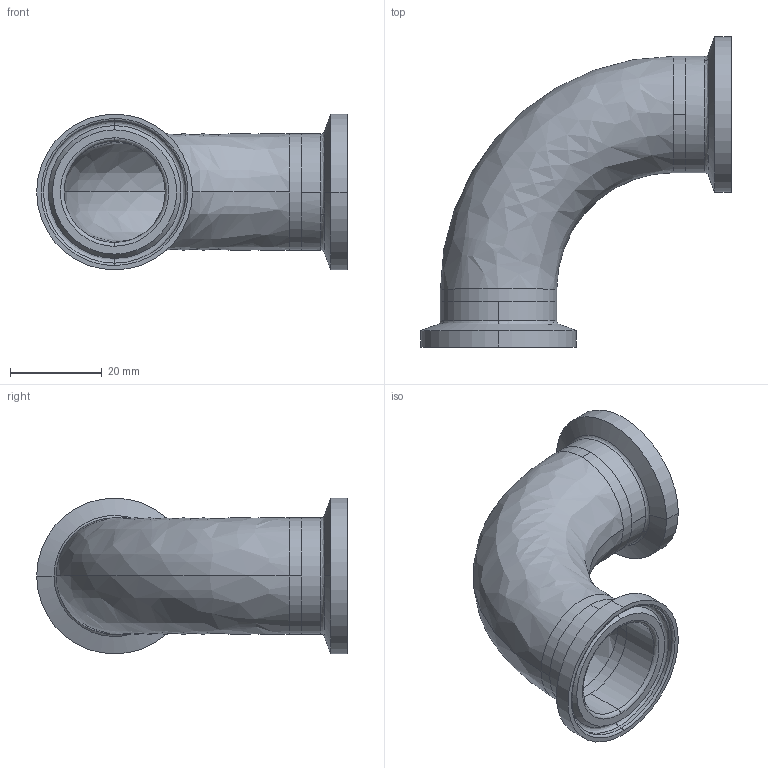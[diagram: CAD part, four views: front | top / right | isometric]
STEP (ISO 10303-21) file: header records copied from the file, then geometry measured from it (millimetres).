
FILE_DESCRIPTION (( 'STEP AP214' ), '1' );
FILE_NAME ('TEG2C6L1.0-.. Type A.STEP', '2016-05-22T10:38:36', ( 'eran' ), ( '' ), 'SwSTEP 2.0', 'SolidWorks 2016', '' );
FILE_SCHEMA (( 'AUTOMOTIVE_DESIGN' ));
Length unit declared in the file: millimetre
Products named in the file (1): TEG2C6L1.0-.. Type A
Bounding box: 67.81 x 67.81 x 34.01 mm (x, y, z)
Volume: 13055.3 mm3; surface area: 15322.4 mm2
Topology: 3 solids, 3 shells, 60 faces, 140 edges, 88 vertices
Faces by surface type: cylinder 24, bspline 20, plane 8, cone 8
Entity records: 2040 total; most frequent: CARTESIAN_POINT 613, DIRECTION 314, ORIENTED_EDGE 280, AXIS2_PLACEMENT_3D 141, EDGE_CURVE 140, CIRCLE 100, VERTEX_POINT 88, EDGE_LOOP 68
